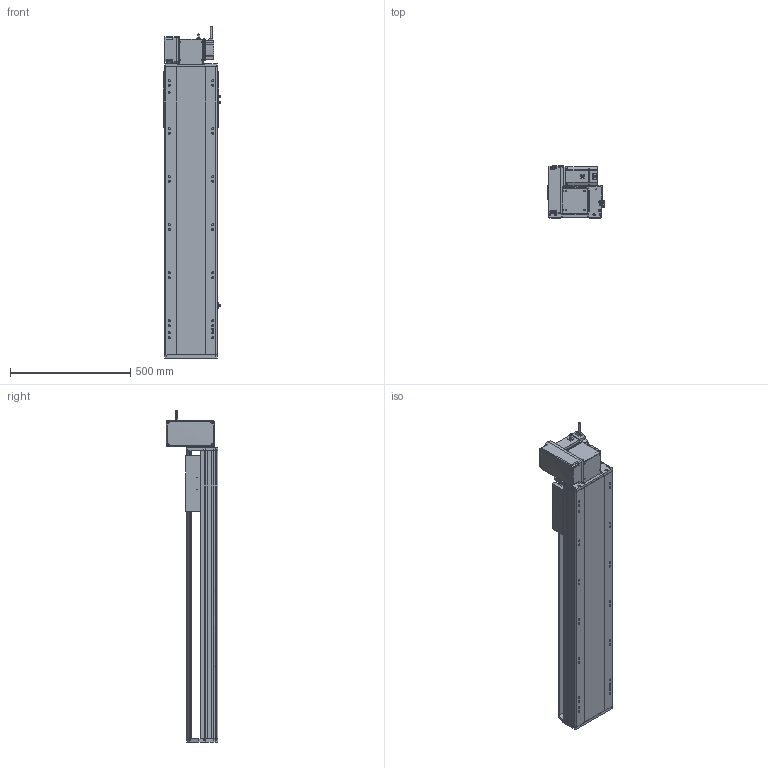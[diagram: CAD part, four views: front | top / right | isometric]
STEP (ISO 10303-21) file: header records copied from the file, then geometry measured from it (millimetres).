
FILE_DESCRIPTION (( 'STEP AP214' ), '1' );
FILE_NAME ('RTB22S-XX-850-LW-M75-C4.STEP', '2025-12-12T05:54:08', ( '' ), ( '' ), 'SwSTEP 2.0', 'SolidWorks 2018', '' );
FILE_SCHEMA (( 'AUTOMOTIVE_DESIGN' ));
Length unit declared in the file: millimetre
Products named in the file (14): RTB22S-GY-001耜裔^RTB22S-XX-XX-LW-M75-C4; RTB22S-L-004賑釱^RTB22S-XX-XX-LW-M75-C4; RTB22S-LW-々湍釱蚾饜^RTB22S-XX-XX-LW-M75-C4; OMRON EE-SX672 传感器^RTB22S-XX-XX-LW-M75-C4; RTB22S-GY-018P^RTB22S-LW-々湍釱蚾饜_RTB22S-XX-XX-LW-M75-C4; 750W萇儂^RTB22S-XX-XX-LW-M75-C4; RTB22S-GY-017P^RTB22S-LW-々湍釱蚾饜_RTB22S-XX-XX-LW-M75-C4; RTB22S-L-011菁釱^RTB22S-XX-XX-LW-M75-C4; RTB22S-XX-850-LW-M75-C4; RTB22S-GY-008-M75--萇儂啣^RTB22S-LW-々湍釱蚾饜_RTB22S-XX-XX-LW-M75-C4; RTH22-GY-013外置感应片^RTB22S-XX-XX-LW-M75-C4; RTB22S-GY-007奻裔^RTB22S-XX-XX-LW-M75-C4; RTB22S-GY-005P^RTB22S-LW-々湍釱蚾饜_RTB22S-XX-XX-LW-M75-C4; RTB22S-GY-014--々湍釱^RTB22S-LW-々湍釱蚾饜_RTB22S-XX-XX-LW-M75-C4
Assembly tree (16 placements, depth 3):
  RTB22S-XX-850-LW-M75-C4
    RTB22S-L-011菁釱^RTB22S-XX-XX-LW-M75-C4
    RTB22S-GY-001耜裔^RTB22S-XX-XX-LW-M75-C4
    750W萇儂^RTB22S-XX-XX-LW-M75-C4
    RTB22S-GY-007奻裔^RTB22S-XX-XX-LW-M75-C4
    RTB22S-L-004賑釱^RTB22S-XX-XX-LW-M75-C4
    RTH22-GY-013外置感应片^RTB22S-XX-XX-LW-M75-C4
    OMRON EE-SX672 传感器^RTB22S-XX-XX-LW-M75-C4  x3
    RTB22S-LW-々湍釱蚾饜^RTB22S-XX-XX-LW-M75-C4
      RTB22S-GY-014--々湍釱^RTB22S-LW-々湍釱蚾饜_RTB22S-XX-XX-LW-M75-C4
      RTB22S-GY-017P^RTB22S-LW-々湍釱蚾饜_RTB22S-XX-XX-LW-M75-C4  x2
      RTB22S-GY-005P^RTB22S-LW-々湍釱蚾饜_RTB22S-XX-XX-LW-M75-C4
      RTB22S-GY-008-M75--萇儂啣^RTB22S-LW-々湍釱蚾饜_RTB22S-XX-XX-LW-M75-C4
      RTB22S-GY-018P^RTB22S-LW-々湍釱蚾饜_RTB22S-XX-XX-LW-M75-C4
Bounding box: 238.5 x 215.5 x 1382.2 mm (x, y, z)
Volume: 19537872.7 mm3; surface area: 2042747.8 mm2
Topology: 15 solids, 15 shells, 1965 faces, 5336 edges, 3422 vertices
Faces by surface type: plane 913, cylinder 610, bspline 296, cone 134, sphere 8, torus 4
Entity records: 52110 total; most frequent: CARTESIAN_POINT 15024, ORIENTED_EDGE 7468, DIRECTION 7168, EDGE_CURVE 3734, AXIS2_PLACEMENT_3D 2522, VERTEX_POINT 2426, LINE 2124, VECTOR 2124
